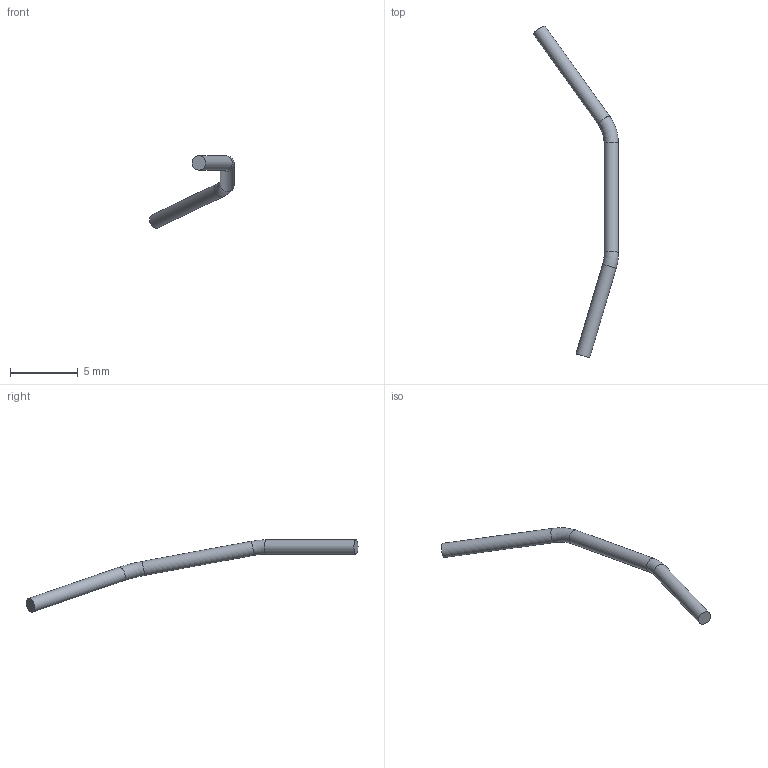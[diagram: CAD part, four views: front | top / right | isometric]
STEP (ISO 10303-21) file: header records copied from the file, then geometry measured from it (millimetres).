
FILE_DESCRIPTION(('Open CASCADE Model'),'2;1');
FILE_NAME('Open CASCADE Shape Model','2026-09-15T14:26:47',('Author'),( 'Open CASCADE'),'Open CASCADE STEP processor 7.7','Open CASCADE 7.7' ,'Unknown');
FILE_SCHEMA(('AUTOMOTIVE_DESIGN { 1 0 10303 214 1 1 1 1 }'));
Length unit declared in the file: millimetre
Products named in the file (1): J9_COMMON_LINK_1_OD1p05_R3
Bounding box: 6.26 x 24.48 x 5.33 mm (x, y, z)
Volume: 22.9 mm3; surface area: 89 mm2
Topology: 1 solids, 1 shells, 7 faces, 11 edges, 6 vertices
Faces by surface type: cylinder 3, torus 2, plane 2
Full cylindrical faces by diameter (mm): 1.05 x3
Entity records: 305 total; most frequent: CARTESIAN_POINT 56, DIRECTION 48, ORIENTED_EDGE 22, PCURVE 22, DEFINITIONAL_REPRESENTATION 22, AXIS2_PLACEMENT_3D 16, LINE 14, VECTOR 14
